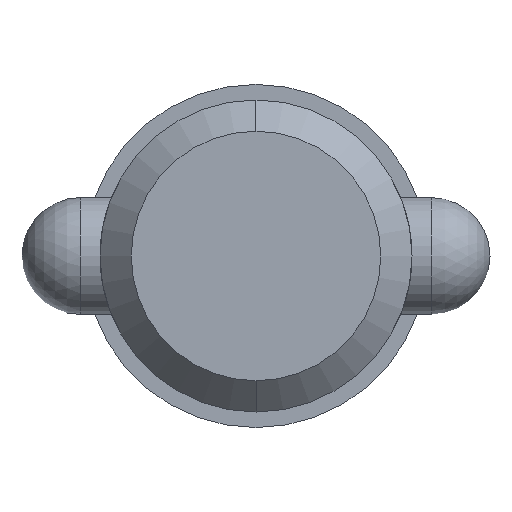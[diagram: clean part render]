
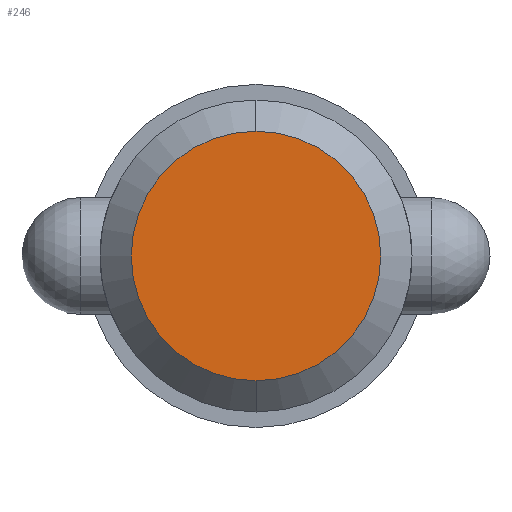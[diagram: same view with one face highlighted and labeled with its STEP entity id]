
A CAD part, left-side view. The second image highlights one B-rep face of the part: STEP entity #246.
In plain terms, the highlighted planar face has unit normal (-1, 0, 0).
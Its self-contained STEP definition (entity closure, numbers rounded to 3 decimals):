
#2 = VERTEX_POINT ( 'NONE', #1081 ) ;
#23 = AXIS2_PLACEMENT_3D ( 'NONE', #814, #1065, #301 ) ;
#24 = CIRCLE ( 'NONE', #23, 10.16 ) ;
#105 = FACE_OUTER_BOUND ( 'NONE', #510, .T. ) ;
#204 = DIRECTION ( 'NONE',  ( 1., 0., 0. ) ) ;
#209 = EDGE_CURVE ( 'NONE', #667, #2, #24, .T. ) ;
#236 = CARTESIAN_POINT ( 'NONE',  ( 0., 0., 0. ) ) ;
#238 = ORIENTED_EDGE ( 'NONE', *, *, #812, .F. ) ;
#246 = ADVANCED_FACE ( 'NONE', ( #105 ), #395, .T. ) ;
#301 = DIRECTION ( 'NONE',  ( 0., 0., -1. ) ) ;
#357 = CIRCLE ( 'NONE', #627, 10.16 ) ;
#375 = CARTESIAN_POINT ( 'NONE',  ( 0., 0., 0. ) ) ;
#395 = PLANE ( 'NONE',  #778 ) ;
#483 = CARTESIAN_POINT ( 'NONE',  ( 0., 0., 10.16 ) ) ;
#510 = EDGE_LOOP ( 'NONE', ( #238, #914 ) ) ;
#548 = DIRECTION ( 'NONE',  ( 0., 0., -1. ) ) ;
#627 = AXIS2_PLACEMENT_3D ( 'NONE', #375, #204, #548 ) ;
#667 = VERTEX_POINT ( 'NONE', #483 ) ;
#723 = DIRECTION ( 'NONE',  ( 0., 0., 1. ) ) ;
#778 = AXIS2_PLACEMENT_3D ( 'NONE', #236, #897, #723 ) ;
#812 = EDGE_CURVE ( 'NONE', #2, #667, #357, .T. ) ;
#814 = CARTESIAN_POINT ( 'NONE',  ( 0., 0., 0. ) ) ;
#897 = DIRECTION ( 'NONE',  ( -1., 0., 0. ) ) ;
#914 = ORIENTED_EDGE ( 'NONE', *, *, #209, .F. ) ;
#1065 = DIRECTION ( 'NONE',  ( 1., 0., 0. ) ) ;
#1081 = CARTESIAN_POINT ( 'NONE',  ( 0., 0., -10.16 ) ) ;
